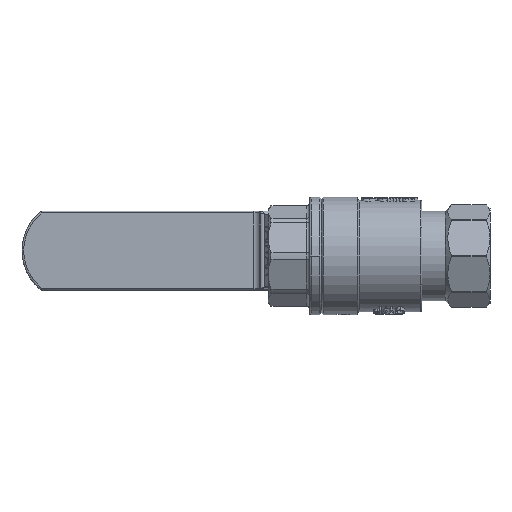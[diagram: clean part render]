
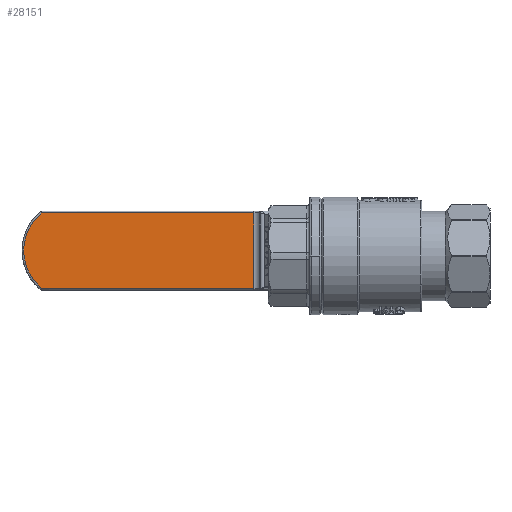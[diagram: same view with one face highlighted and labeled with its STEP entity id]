
A CAD part, front view. The second image highlights one B-rep face of the part: STEP entity #28151.
In plain terms, the highlighted planar face has unit normal (0, -1, 0).
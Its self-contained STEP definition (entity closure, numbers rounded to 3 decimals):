
#925 = EDGE_CURVE ( 'NONE', #63445, #74690, #8990, .T. ) ;
#5375 = DIRECTION ( 'NONE',  ( 0., 1., 0. ) ) ;
#5700 = CARTESIAN_POINT ( 'NONE',  ( -13., -4., 0. ) ) ;
#5803 = CARTESIAN_POINT ( 'NONE',  ( -63.662, -4., 10. ) ) ;
#8990 = LINE ( 'NONE', #97886, #111297 ) ;
#28151 = ADVANCED_FACE ( 'NONE', ( #103759 ), #46149, .F. ) ;
#29619 = VECTOR ( 'NONE', #50889, 1000. ) ;
#41499 = LINE ( 'NONE', #107987, #66358 ) ;
#45449 = AXIS2_PLACEMENT_3D ( 'NONE', #5700, #84972, #125670 ) ;
#46149 = PLANE ( 'NONE',  #89140 ) ;
#48260 = DIRECTION ( 'NONE',  ( 1., 0., 0. ) ) ;
#50889 = DIRECTION ( 'NONE',  ( -1., 0., 0. ) ) ;
#51350 = EDGE_LOOP ( 'NONE', ( #121485, #105473, #98272, #120137 ) ) ;
#55977 = LINE ( 'NONE', #100225, #29619 ) ;
#58117 = CARTESIAN_POINT ( 'NONE',  ( -4.515, -4., 10.5 ) ) ;
#63445 = VERTEX_POINT ( 'NONE', #109284 ) ;
#66358 = VECTOR ( 'NONE', #48260, 1000. ) ;
#67918 = CARTESIAN_POINT ( 'NONE',  ( -63.662, -4., -10.5 ) ) ;
#74690 = VERTEX_POINT ( 'NONE', #67918 ) ;
#80202 = EDGE_CURVE ( 'NONE', #74690, #94063, #41499, .T. ) ;
#84722 = CIRCLE ( 'NONE', #45449, 13.5 ) ;
#84972 = DIRECTION ( 'NONE',  ( 0., -1., 0. ) ) ;
#89140 = AXIS2_PLACEMENT_3D ( 'NONE', #5803, #5375, #115833 ) ;
#94063 = VERTEX_POINT ( 'NONE', #125465 ) ;
#97090 = VERTEX_POINT ( 'NONE', #58117 ) ;
#97886 = CARTESIAN_POINT ( 'NONE',  ( -63.662, -4., 10. ) ) ;
#98272 = ORIENTED_EDGE ( 'NONE', *, *, #105933, .T. ) ;
#99156 = DIRECTION ( 'NONE',  ( 0., 0., -1. ) ) ;
#100225 = CARTESIAN_POINT ( 'NONE',  ( -63.662, -4., 10.5 ) ) ;
#103759 = FACE_OUTER_BOUND ( 'NONE', #51350, .T. ) ;
#105473 = ORIENTED_EDGE ( 'NONE', *, *, #80202, .T. ) ;
#105933 = EDGE_CURVE ( 'NONE', #94063, #97090, #84722, .T. ) ;
#107987 = CARTESIAN_POINT ( 'NONE',  ( -63.662, -4., -10.5 ) ) ;
#109284 = CARTESIAN_POINT ( 'NONE',  ( -63.662, -4., 10.5 ) ) ;
#111297 = VECTOR ( 'NONE', #99156, 1000. ) ;
#115833 = DIRECTION ( 'NONE',  ( -1., 0., 0. ) ) ;
#120137 = ORIENTED_EDGE ( 'NONE', *, *, #121853, .T. ) ;
#121485 = ORIENTED_EDGE ( 'NONE', *, *, #925, .T. ) ;
#121853 = EDGE_CURVE ( 'NONE', #97090, #63445, #55977, .T. ) ;
#125465 = CARTESIAN_POINT ( 'NONE',  ( -4.515, -4., -10.5 ) ) ;
#125670 = DIRECTION ( 'NONE',  ( -1., 0., 0. ) ) ;
